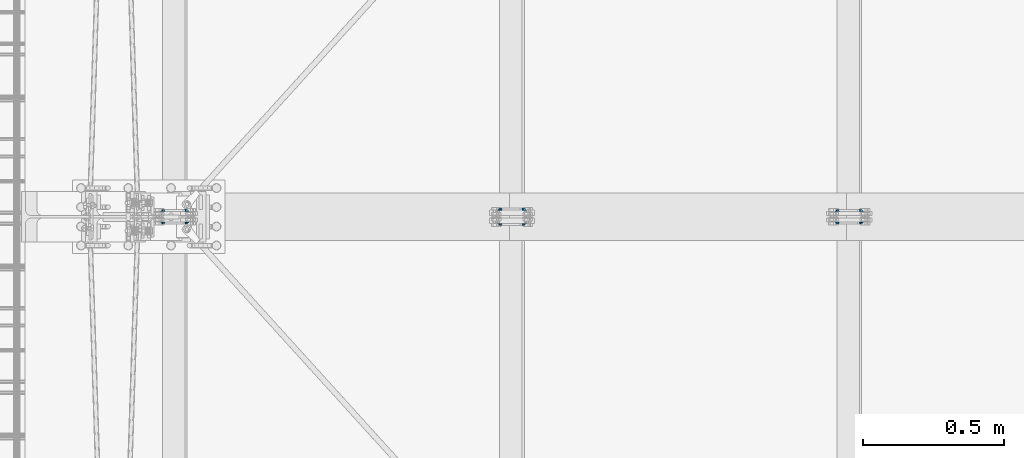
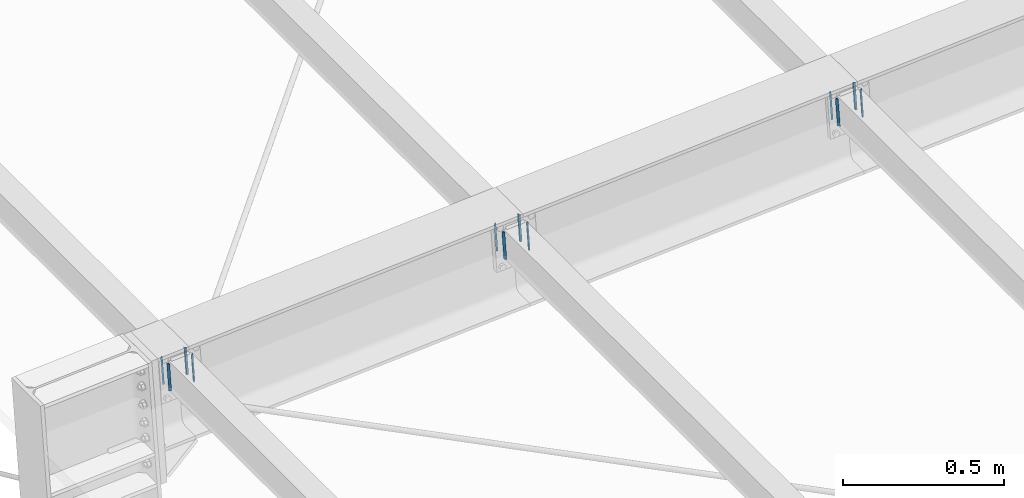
# One storey, part 20 of 72: 24 fasteners.
"""IFC4 building model written with IfcOpenShell, lengths in metres."""

from ifc_helpers import new_model, si_unit, frame, origin_with_axes, place, context, project, spatial, polyline, outline, extrude, type_object, element, save


model = new_model("IFC4")

# Units and contexts
model_context = context("Model", 3, precision=1e-05, world=origin_with_axes())
ifc_project = project(units=[si_unit("LENGTHUNIT", "METRE"), si_unit("AREAUNIT", "SQUARE_METRE"), si_unit("VOLUMEUNIT", "CUBIC_METRE"), si_unit("MASSUNIT", "GRAM", prefix="KILO"), si_unit("TIMEUNIT", "SECOND"), si_unit("PLANEANGLEUNIT", "RADIAN"), si_unit("SOLIDANGLEUNIT", "STERADIAN"), si_unit("THERMODYNAMICTEMPERATUREUNIT", "DEGREE_CELSIUS")], contexts=[model_context])

# Site, building, storey
placement_1 = place(None, origin_with_axes())
site = spatial("IfcSite", under=ifc_project, at=placement_1, Name="Italia", CompositionType="ELEMENT")
building = spatial("IfcBuilding", under=site, at=placement_1, Name="Pensilina", CompositionType="ELEMENT")
storey = spatial("IfcBuildingStorey", under=building, at=placement_1, Name="Storey 0", CompositionType="ELEMENT", Elevation=0.0)

# Fasteners
fastener_type_1 = type_object("IfcFastenerType", Name="Collegamento 0204_0203", PredefinedType="WELD")
placement_2 = place(placement_1, origin_with_axes())
fastener_1_placement = place(placement_2, origin_with_axes())
element("IfcFastener", 1, at=fastener_1_placement, inside=storey, type_object=fastener_type_1, Name="Collegamento 0204_0203", context=model_context, shape_type="SweptSolid", body=[
    extrude(outline(polyline([(0.0, 0.0, 0.0), (-0.00717354, 0.00695825, 0.0), (0.0, 0.00695825, 0.0), (0.0, 0.0, 0.0)])), frame((0.970676, 15.8211, 3.74635), z_axis=(0.067317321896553, 0.0, -0.997731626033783), x_axis=(0.0, 1.0, 0.0)), (0.0, 0.0, 1.0), 0.1061),
])
fastener_type_2 = type_object("IfcFastenerType", Name="Collegamento 0204_0203", PredefinedType="WELD")
fastener_2_placement = place(placement_2, origin_with_axes())
element("IfcFastener", 2, at=fastener_2_placement, inside=storey, type_object=fastener_type_2, Name="Collegamento 0204_0203", context=model_context, shape_type="SweptSolid", body=[
    extrude(outline(polyline([(0.0, 0.0, 0.0), (0.00717354, -0.00695825, 0.0), (0.0, -0.00695825, 0.0), (0.0, 0.0, 0.0)])), frame((1.07142, 15.8211, 3.64681), z_axis=(-0.067317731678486, 0.0, 0.997731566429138), x_axis=(0.0, -1.0, 0.0)), (0.0, 0.0, 1.0), 0.1061),
])
fastener_type_3 = type_object("IfcFastenerType", Name="Collegamento 0204_0203", PredefinedType="WELD")
fastener_3_placement = place(placement_2, origin_with_axes())
element("IfcFastener", 3, at=fastener_3_placement, inside=storey, type_object=fastener_type_3, Name="Collegamento 0204_0203", context=model_context, shape_type="SweptSolid", body=[
    extrude(outline(polyline([(0.0, 0.0, 0.0), (-0.00717354, 0.00695825, 0.0), (0.0, 0.00695825, 0.0), (0.0, 0.0, 0.0)])), frame((0.970676, 15.8211, 3.74635), z_axis=(0.067317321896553, 0.0, -0.997731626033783), x_axis=(0.0, 1.0, 0.0)), (0.0, 0.0, 1.0), 0.1061),
])
fastener_type_4 = type_object("IfcFastenerType", Name="Collegamento 0204_0203", PredefinedType="WELD")
fastener_4_placement = place(placement_2, origin_with_axes())
element("IfcFastener", 4, at=fastener_4_placement, inside=storey, type_object=fastener_type_4, Name="Collegamento 0204_0203", context=model_context, shape_type="SweptSolid", body=[
    extrude(outline(polyline([(0.0, 0.0, 0.0), (0.00717354, -0.00695825, 0.0), (0.0, -0.00695825, 0.0), (0.0, 0.0, 0.0)])), frame((1.07142, 15.8211, 3.64681), z_axis=(-0.067317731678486, 0.0, 0.997731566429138), x_axis=(0.0, -1.0, 0.0)), (0.0, 0.0, 1.0), 0.1061),
])
fastener_type_5 = type_object("IfcFastenerType", Name="Collegamento 0204_0205", PredefinedType="WELD")
fastener_5_placement = place(placement_2, origin_with_axes())
element("IfcFastener", 5, at=fastener_5_placement, inside=storey, type_object=fastener_type_5, Name="Collegamento 0204_0205", context=model_context, shape_type="SweptSolid", body=[
    extrude(outline(polyline([(0.0, 0.0, 0.0), (-0.00717354, 0.00695825, 0.0), (0.0, 0.00695825, 0.0), (0.0, 0.0, 0.0)])), frame((0.977819, 15.8589, 3.64049), z_axis=(-0.067317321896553, 0.0, 0.997731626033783), x_axis=(0.0, -1.0, 0.0)), (0.0, 0.0, 1.0), 0.1061),
])
fastener_type_6 = type_object("IfcFastenerType", Name="Collegamento 0204_0205", PredefinedType="WELD")
fastener_6_placement = place(placement_2, origin_with_axes())
element("IfcFastener", 6, at=fastener_6_placement, inside=storey, type_object=fastener_type_6, Name="Collegamento 0204_0205", context=model_context, shape_type="SweptSolid", body=[
    extrude(outline(polyline([(0.0, 0.0, 0.0), (0.00717354, -0.00695825, 0.0), (0.0, -0.00695825, 0.0), (0.0, 0.0, 0.0)])), frame((1.06428, 15.8589, 3.75267), z_axis=(0.067317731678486, 0.0, -0.997731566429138), x_axis=(0.0, 1.0, 0.0)), (0.0, 0.0, 1.0), 0.1061),
])
fastener_type_7 = type_object("IfcFastenerType", Name="Collegamento 0204_0205", PredefinedType="WELD")
fastener_7_placement = place(placement_2, origin_with_axes())
element("IfcFastener", 7, at=fastener_7_placement, inside=storey, type_object=fastener_type_7, Name="Collegamento 0204_0205", context=model_context, shape_type="SweptSolid", body=[
    extrude(outline(polyline([(0.0, 0.0, 0.0), (-0.00717354, 0.00695825, 0.0), (0.0, 0.00695825, 0.0), (0.0, 0.0, 0.0)])), frame((0.977819, 15.8589, 3.64049), z_axis=(-0.067317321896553, 0.0, 0.997731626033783), x_axis=(0.0, -1.0, 0.0)), (0.0, 0.0, 1.0), 0.1061),
])
fastener_type_8 = type_object("IfcFastenerType", Name="Collegamento 0204_0205", PredefinedType="WELD")
fastener_8_placement = place(placement_2, origin_with_axes())
element("IfcFastener", 8, at=fastener_8_placement, inside=storey, type_object=fastener_type_8, Name="Collegamento 0204_0205", context=model_context, shape_type="SweptSolid", body=[
    extrude(outline(polyline([(0.0, 0.0, 0.0), (0.00717354, -0.00695825, 0.0), (0.0, -0.00695825, 0.0), (0.0, 0.0, 0.0)])), frame((1.06428, 15.8589, 3.75267), z_axis=(0.067317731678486, 0.0, -0.997731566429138), x_axis=(0.0, 1.0, 0.0)), (0.0, 0.0, 1.0), 0.1061),
])
fastener_type_9 = type_object("IfcFastenerType", Name="Collegamento 0304_0303", PredefinedType="WELD")
fastener_9_placement = place(placement_2, origin_with_axes())
element("IfcFastener", 9, at=fastener_9_placement, inside=storey, type_object=fastener_type_9, Name="Collegamento 0304_0303", context=model_context, shape_type="SweptSolid", body=[
    extrude(outline(polyline([(0.0, 0.0, 0.0), (-0.00717354, 0.00695848, 0.0), (0.0, 0.00695848, 0.0), (0.0, 0.0, 0.0)])), frame((2.1679, 15.8161, 3.8286), z_axis=(0.067318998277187, 0.0, -0.997731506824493), x_axis=(0.0, 1.0, 0.0)), (0.0, 0.0, 1.0), 0.1061),
])
fastener_type_10 = type_object("IfcFastenerType", Name="Collegamento 0304_0303", PredefinedType="WELD")
fastener_10_placement = place(placement_2, origin_with_axes())
element("IfcFastener", 10, at=fastener_10_placement, inside=storey, type_object=fastener_type_10, Name="Collegamento 0304_0303", context=model_context, shape_type="SweptSolid", body=[
    extrude(outline(polyline([(0.0, 0.0, 0.0), (0.00717354, -0.00695825, 0.0), (0.0, -0.00695825, 0.0), (0.0, 0.0, 0.0)])), frame((2.26864, 15.8161, 3.72906), z_axis=(-0.067318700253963, 0.0, 0.997731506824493), x_axis=(0.0, -1.0, 0.0)), (0.0, 0.0, 1.0), 0.1061),
])
fastener_type_11 = type_object("IfcFastenerType", Name="Collegamento 0304_0303", PredefinedType="WELD")
fastener_11_placement = place(placement_2, origin_with_axes())
element("IfcFastener", 11, at=fastener_11_placement, inside=storey, type_object=fastener_type_11, Name="Collegamento 0304_0303", context=model_context, shape_type="SweptSolid", body=[
    extrude(outline(polyline([(0.0, 0.0, 0.0), (-0.00717354, 0.00695848, 0.0), (0.0, 0.00695848, 0.0), (0.0, 0.0, 0.0)])), frame((2.1679, 15.8161, 3.8286), z_axis=(0.067318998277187, 0.0, -0.997731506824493), x_axis=(0.0, 1.0, 0.0)), (0.0, 0.0, 1.0), 0.1061),
])
fastener_type_12 = type_object("IfcFastenerType", Name="Collegamento 0304_0303", PredefinedType="WELD")
fastener_12_placement = place(placement_2, origin_with_axes())
element("IfcFastener", 12, at=fastener_12_placement, inside=storey, type_object=fastener_type_12, Name="Collegamento 0304_0303", context=model_context, shape_type="SweptSolid", body=[
    extrude(outline(polyline([(0.0, 0.0, 0.0), (0.00717354, -0.00695825, 0.0), (0.0, -0.00695825, 0.0), (0.0, 0.0, 0.0)])), frame((2.26864, 15.8161, 3.72906), z_axis=(-0.067318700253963, 0.0, 0.997731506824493), x_axis=(0.0, -1.0, 0.0)), (0.0, 0.0, 1.0), 0.1061),
])
fastener_type_13 = type_object("IfcFastenerType", Name="Collegamento 0304_0305", PredefinedType="WELD")
fastener_13_placement = place(placement_2, origin_with_axes())
element("IfcFastener", 13, at=fastener_13_placement, inside=storey, type_object=fastener_type_13, Name="Collegamento 0304_0305", context=model_context, shape_type="SweptSolid", body=[
    extrude(outline(polyline([(0.0, 0.0, 0.0), (-0.00717354, 0.00695848, 0.0), (0.0, 0.00695848, 0.0), (0.0, 0.0, 0.0)])), frame((2.17504, 15.8639, 3.72274), z_axis=(-0.067318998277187, 0.0, 0.997731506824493), x_axis=(0.0, -1.0, 0.0)), (0.0, 0.0, 1.0), 0.1061),
])
fastener_type_14 = type_object("IfcFastenerType", Name="Collegamento 0304_0305", PredefinedType="WELD")
fastener_14_placement = place(placement_2, origin_with_axes())
element("IfcFastener", 14, at=fastener_14_placement, inside=storey, type_object=fastener_type_14, Name="Collegamento 0304_0305", context=model_context, shape_type="SweptSolid", body=[
    extrude(outline(polyline([(0.0, 0.0, 0.0), (0.00717354, -0.00695825, 0.0), (0.0, -0.00695825, 0.0), (0.0, 0.0, 0.0)])), frame((2.2615, 15.8639, 3.83492), z_axis=(0.067318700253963, 0.0, -0.997731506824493), x_axis=(0.0, 1.0, 0.0)), (0.0, 0.0, 1.0), 0.1061),
])
fastener_type_15 = type_object("IfcFastenerType", Name="Collegamento 0304_0305", PredefinedType="WELD")
fastener_15_placement = place(placement_2, origin_with_axes())
element("IfcFastener", 15, at=fastener_15_placement, inside=storey, type_object=fastener_type_15, Name="Collegamento 0304_0305", context=model_context, shape_type="SweptSolid", body=[
    extrude(outline(polyline([(0.0, 0.0, 0.0), (-0.00717354, 0.00695848, 0.0), (0.0, 0.00695848, 0.0), (0.0, 0.0, 0.0)])), frame((2.17504, 15.8639, 3.72274), z_axis=(-0.067318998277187, 0.0, 0.997731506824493), x_axis=(0.0, -1.0, 0.0)), (0.0, 0.0, 1.0), 0.1061),
])
fastener_type_16 = type_object("IfcFastenerType", Name="Collegamento 0304_0305", PredefinedType="WELD")
fastener_16_placement = place(placement_2, origin_with_axes())
element("IfcFastener", 16, at=fastener_16_placement, inside=storey, type_object=fastener_type_16, Name="Collegamento 0304_0305", context=model_context, shape_type="SweptSolid", body=[
    extrude(outline(polyline([(0.0, 0.0, 0.0), (0.00717354, -0.00695825, 0.0), (0.0, -0.00695825, 0.0), (0.0, 0.0, 0.0)])), frame((2.2615, 15.8639, 3.83492), z_axis=(0.067318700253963, 0.0, -0.997731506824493), x_axis=(0.0, 1.0, 0.0)), (0.0, 0.0, 1.0), 0.1061),
])
fastener_type_17 = type_object("IfcFastenerType", Name="Collegamento 0404_0403", PredefinedType="WELD")
fastener_17_placement = place(placement_2, origin_with_axes())
element("IfcFastener", 17, at=fastener_17_placement, inside=storey, type_object=fastener_type_17, Name="Collegamento 0404_0403", context=model_context, shape_type="SweptSolid", body=[
    extrude(outline(polyline([(0.0, 0.0, 0.0), (-0.00717354, 0.00695825, 0.0), (0.0, 0.00695825, 0.0), (0.0, 0.0, 0.0)])), frame((3.36503, 15.8211, 3.91085), z_axis=(0.067318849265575, 0.0, -0.997731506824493), x_axis=(0.0, 1.0, 0.0)), (0.0, 0.0, 1.0), 0.1061),
])
fastener_type_18 = type_object("IfcFastenerType", Name="Collegamento 0404_0403", PredefinedType="WELD")
fastener_18_placement = place(placement_2, origin_with_axes())
element("IfcFastener", 18, at=fastener_18_placement, inside=storey, type_object=fastener_type_18, Name="Collegamento 0404_0403", context=model_context, shape_type="SweptSolid", body=[
    extrude(outline(polyline([(0.0, 0.0, 0.0), (0.00717354, -0.00695825, 0.0), (0.0, -0.00695825, 0.0), (0.0, 0.0, 0.0)])), frame((3.46577, 15.8211, 3.8113), z_axis=(-0.067318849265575, 0.0, 0.997731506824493), x_axis=(0.0, -1.0, 0.0)), (0.0, 0.0, 1.0), 0.1061),
])
fastener_type_19 = type_object("IfcFastenerType", Name="Collegamento 0404_0403", PredefinedType="WELD")
fastener_19_placement = place(placement_2, origin_with_axes())
element("IfcFastener", 19, at=fastener_19_placement, inside=storey, type_object=fastener_type_19, Name="Collegamento 0404_0403", context=model_context, shape_type="SweptSolid", body=[
    extrude(outline(polyline([(0.0, 0.0, 0.0), (-0.00717354, 0.00695825, 0.0), (0.0, 0.00695825, 0.0), (0.0, 0.0, 0.0)])), frame((3.36503, 15.8211, 3.91085), z_axis=(0.067318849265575, 0.0, -0.997731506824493), x_axis=(0.0, 1.0, 0.0)), (0.0, 0.0, 1.0), 0.1061),
])
fastener_type_20 = type_object("IfcFastenerType", Name="Collegamento 0404_0403", PredefinedType="WELD")
fastener_20_placement = place(placement_2, origin_with_axes())
element("IfcFastener", 20, at=fastener_20_placement, inside=storey, type_object=fastener_type_20, Name="Collegamento 0404_0403", context=model_context, shape_type="SweptSolid", body=[
    extrude(outline(polyline([(0.0, 0.0, 0.0), (0.00717354, -0.00695825, 0.0), (0.0, -0.00695825, 0.0), (0.0, 0.0, 0.0)])), frame((3.46577, 15.8211, 3.8113), z_axis=(-0.067318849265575, 0.0, 0.997731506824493), x_axis=(0.0, -1.0, 0.0)), (0.0, 0.0, 1.0), 0.1061),
])
fastener_type_21 = type_object("IfcFastenerType", Name="Collegamento 0404_0405", PredefinedType="WELD")
fastener_21_placement = place(placement_2, origin_with_axes())
element("IfcFastener", 21, at=fastener_21_placement, inside=storey, type_object=fastener_type_21, Name="Collegamento 0404_0405", context=model_context, shape_type="SweptSolid", body=[
    extrude(outline(polyline([(0.0, 0.0, 0.0), (-0.00717354, 0.00695825, 0.0), (0.0, 0.00695825, 0.0), (0.0, 0.0, 0.0)])), frame((3.37217, 15.8589, 3.80499), z_axis=(-0.067318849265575, 0.0, 0.997731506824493), x_axis=(0.0, -1.0, 0.0)), (0.0, 0.0, 1.0), 0.1061),
])
fastener_type_22 = type_object("IfcFastenerType", Name="Collegamento 0404_0405", PredefinedType="WELD")
fastener_22_placement = place(placement_2, origin_with_axes())
element("IfcFastener", 22, at=fastener_22_placement, inside=storey, type_object=fastener_type_22, Name="Collegamento 0404_0405", context=model_context, shape_type="SweptSolid", body=[
    extrude(outline(polyline([(0.0, 0.0, 0.0), (0.00717354, -0.00695848, 0.0), (0.0, -0.00695848, 0.0), (0.0, 0.0, 0.0)])), frame((3.45863, 15.8589, 3.91716), z_axis=(0.067318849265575, 0.0, -0.997731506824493), x_axis=(0.0, 1.0, 0.0)), (0.0, 0.0, 1.0), 0.1061),
])
fastener_type_23 = type_object("IfcFastenerType", Name="Collegamento 0404_0405", PredefinedType="WELD")
fastener_23_placement = place(placement_2, origin_with_axes())
element("IfcFastener", 23, at=fastener_23_placement, inside=storey, type_object=fastener_type_23, Name="Collegamento 0404_0405", context=model_context, shape_type="SweptSolid", body=[
    extrude(outline(polyline([(0.0, 0.0, 0.0), (-0.00717354, 0.00695825, 0.0), (0.0, 0.00695825, 0.0), (0.0, 0.0, 0.0)])), frame((3.37217, 15.8589, 3.80499), z_axis=(-0.067318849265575, 0.0, 0.997731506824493), x_axis=(0.0, -1.0, 0.0)), (0.0, 0.0, 1.0), 0.1061),
])
fastener_type_24 = type_object("IfcFastenerType", Name="Collegamento 0404_0405", PredefinedType="WELD")
fastener_24_placement = place(placement_2, origin_with_axes())
element("IfcFastener", 24, at=fastener_24_placement, inside=storey, type_object=fastener_type_24, Name="Collegamento 0404_0405", context=model_context, shape_type="SweptSolid", body=[
    extrude(outline(polyline([(0.0, 0.0, 0.0), (0.00717354, -0.00695848, 0.0), (0.0, -0.00695848, 0.0), (0.0, 0.0, 0.0)])), frame((3.45863, 15.8589, 3.91716), z_axis=(0.067318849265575, 0.0, -0.997731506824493), x_axis=(0.0, 1.0, 0.0)), (0.0, 0.0, 1.0), 0.1061),
])

save(model, "model.ifc")
